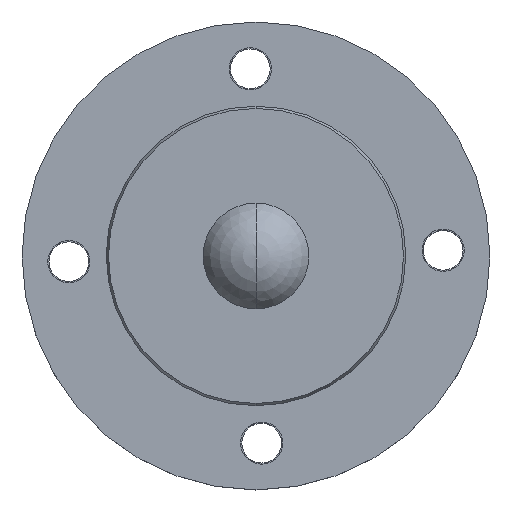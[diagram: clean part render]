
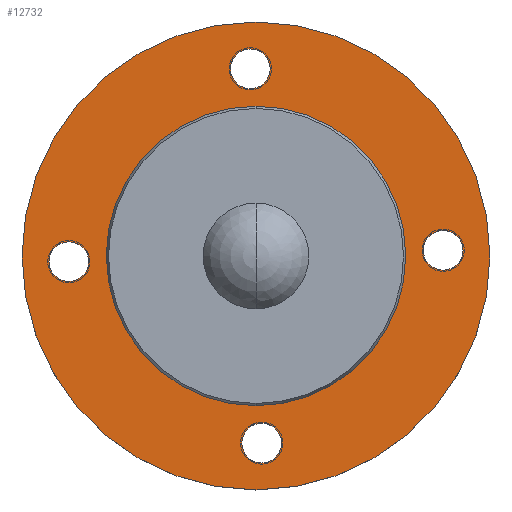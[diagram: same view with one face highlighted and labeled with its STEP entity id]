
A CAD part, top view. The second image highlights one B-rep face of the part: STEP entity #12732.
In plain terms, the highlighted planar face has unit normal (0, 0, 1).
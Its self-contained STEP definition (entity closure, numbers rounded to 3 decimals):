
#4563=CARTESIAN_POINT('',(0.,0.,35.));
#4564=DIRECTION('',(0.,0.,1.));
#4565=DIRECTION('',(1.,0.,0.));
#4566=AXIS2_PLACEMENT_3D('',#4563,#4564,#4565);
#4568=CARTESIAN_POINT('',(0.,0.,35.));
#4569=DIRECTION('',(0.,0.,1.));
#4570=DIRECTION('',(-1.,0.,0.));
#4571=AXIS2_PLACEMENT_3D('',#4568,#4569,#4570);
#4573=CARTESIAN_POINT('',(-2.45,80.,35.));
#4574=DIRECTION('',(0.,0.,1.));
#4575=DIRECTION('',(-1.,0.,0.));
#4576=AXIS2_PLACEMENT_3D('',#4573,#4574,#4575);
#4578=CARTESIAN_POINT('',(-2.45,80.,35.));
#4579=DIRECTION('',(0.,0.,1.));
#4580=DIRECTION('',(1.,0.,0.));
#4581=AXIS2_PLACEMENT_3D('',#4578,#4579,#4580);
#4583=CARTESIAN_POINT('',(-80.,-2.45,35.));
#4584=DIRECTION('',(0.,0.,1.));
#4585=DIRECTION('',(0.,-1.,0.));
#4586=AXIS2_PLACEMENT_3D('',#4583,#4584,#4585);
#4588=CARTESIAN_POINT('',(-80.,-2.45,35.));
#4589=DIRECTION('',(0.,0.,1.));
#4590=DIRECTION('',(0.,1.,0.));
#4591=AXIS2_PLACEMENT_3D('',#4588,#4589,#4590);
#4593=CARTESIAN_POINT('',(2.45,-80.,35.));
#4594=DIRECTION('',(0.,0.,1.));
#4595=DIRECTION('',(1.,0.,0.));
#4596=AXIS2_PLACEMENT_3D('',#4593,#4594,#4595);
#4598=CARTESIAN_POINT('',(2.45,-80.,35.));
#4599=DIRECTION('',(0.,0.,1.));
#4600=DIRECTION('',(-1.,0.,0.));
#4601=AXIS2_PLACEMENT_3D('',#4598,#4599,#4600);
#4603=CARTESIAN_POINT('',(80.,2.45,35.));
#4604=DIRECTION('',(0.,0.,1.));
#4605=DIRECTION('',(0.,1.,0.));
#4606=AXIS2_PLACEMENT_3D('',#4603,#4604,#4605);
#4608=CARTESIAN_POINT('',(80.,2.45,35.));
#4609=DIRECTION('',(0.,0.,1.));
#4610=DIRECTION('',(0.,-1.,0.));
#4611=AXIS2_PLACEMENT_3D('',#4608,#4609,#4610);
#4613=CARTESIAN_POINT('',(0.,0.,35.));
#4614=DIRECTION('',(0.,0.,1.));
#4615=DIRECTION('',(0.,1.,0.));
#4616=AXIS2_PLACEMENT_3D('',#4613,#4614,#4615);
#4618=CARTESIAN_POINT('',(0.,0.,35.));
#4619=DIRECTION('',(0.,0.,1.));
#4620=DIRECTION('',(0.,-1.,0.));
#4621=AXIS2_PLACEMENT_3D('',#4618,#4619,#4620);
#6043=CARTESIAN_POINT('',(100.,0.,35.));
#6044=CARTESIAN_POINT('',(-100.,0.,35.));
#6045=VERTEX_POINT('',#6043);
#6046=VERTEX_POINT('',#6044);
#6055=CARTESIAN_POINT('',(-10.95,80.,35.));
#6056=CARTESIAN_POINT('',(6.05,80.,35.));
#6057=VERTEX_POINT('',#6055);
#6058=VERTEX_POINT('',#6056);
#6063=CARTESIAN_POINT('',(-80.,-10.95,35.));
#6064=CARTESIAN_POINT('',(-80.,6.05,35.));
#6065=VERTEX_POINT('',#6063);
#6066=VERTEX_POINT('',#6064);
#6071=CARTESIAN_POINT('',(10.95,-80.,35.));
#6072=CARTESIAN_POINT('',(-6.05,-80.,35.));
#6073=VERTEX_POINT('',#6071);
#6074=VERTEX_POINT('',#6072);
#6079=CARTESIAN_POINT('',(80.,10.95,35.));
#6080=CARTESIAN_POINT('',(80.,-6.05,35.));
#6081=VERTEX_POINT('',#6079);
#6082=VERTEX_POINT('',#6080);
#6093=CARTESIAN_POINT('',(0.,64.,35.));
#6094=CARTESIAN_POINT('',(0.,-64.,35.));
#6095=VERTEX_POINT('',#6093);
#6096=VERTEX_POINT('',#6094);
#12693=CARTESIAN_POINT('',(0.,0.,35.));
#12694=DIRECTION('',(0.,0.,1.));
#12695=DIRECTION('',(1.,0.,0.));
#12696=AXIS2_PLACEMENT_3D('',#12693,#12694,#12695);
#12697=PLANE('',#12696);
#12698=ORIENTED_EDGE('',*,*,#12673,.F.);
#12699=ORIENTED_EDGE('',*,*,#12687,.F.);
#12700=EDGE_LOOP('',(#12698,#12699));
#12701=FACE_OUTER_BOUND('',#12700,.F.);
#12703=ORIENTED_EDGE('',*,*,#12702,.T.);
#12705=ORIENTED_EDGE('',*,*,#12704,.T.);
#12706=EDGE_LOOP('',(#12703,#12705));
#12707=FACE_BOUND('',#12706,.F.);
#12709=ORIENTED_EDGE('',*,*,#12708,.T.);
#12711=ORIENTED_EDGE('',*,*,#12710,.T.);
#12712=EDGE_LOOP('',(#12709,#12711));
#12713=FACE_BOUND('',#12712,.F.);
#12715=ORIENTED_EDGE('',*,*,#12714,.T.);
#12717=ORIENTED_EDGE('',*,*,#12716,.T.);
#12718=EDGE_LOOP('',(#12715,#12717));
#12719=FACE_BOUND('',#12718,.F.);
#12721=ORIENTED_EDGE('',*,*,#12720,.T.);
#12723=ORIENTED_EDGE('',*,*,#12722,.T.);
#12724=EDGE_LOOP('',(#12721,#12723));
#12725=FACE_BOUND('',#12724,.F.);
#12727=ORIENTED_EDGE('',*,*,#12726,.T.);
#12729=ORIENTED_EDGE('',*,*,#12728,.T.);
#12730=EDGE_LOOP('',(#12727,#12729));
#12731=FACE_BOUND('',#12730,.F.);
#12732=ADVANCED_FACE('',(#12701,#12707,#12713,#12719,#12725,#12731),#12697,.T.);
#4567=CIRCLE('',#4566,100.);
#4572=CIRCLE('',#4571,100.);
#4577=CIRCLE('',#4576,8.5);
#4582=CIRCLE('',#4581,8.5);
#4587=CIRCLE('',#4586,8.5);
#4592=CIRCLE('',#4591,8.5);
#4597=CIRCLE('',#4596,8.5);
#4602=CIRCLE('',#4601,8.5);
#4607=CIRCLE('',#4606,8.5);
#4612=CIRCLE('',#4611,8.5);
#4617=CIRCLE('',#4616,64.);
#4622=CIRCLE('',#4621,64.);
#12673=EDGE_CURVE('',#6045,#6046,#4567,.T.);
#12687=EDGE_CURVE('',#6046,#6045,#4572,.T.);
#12702=EDGE_CURVE('',#6057,#6058,#4577,.T.);
#12704=EDGE_CURVE('',#6058,#6057,#4582,.T.);
#12708=EDGE_CURVE('',#6065,#6066,#4587,.T.);
#12710=EDGE_CURVE('',#6066,#6065,#4592,.T.);
#12714=EDGE_CURVE('',#6073,#6074,#4597,.T.);
#12716=EDGE_CURVE('',#6074,#6073,#4602,.T.);
#12720=EDGE_CURVE('',#6081,#6082,#4607,.T.);
#12722=EDGE_CURVE('',#6082,#6081,#4612,.T.);
#12726=EDGE_CURVE('',#6095,#6096,#4617,.T.);
#12728=EDGE_CURVE('',#6096,#6095,#4622,.T.);
